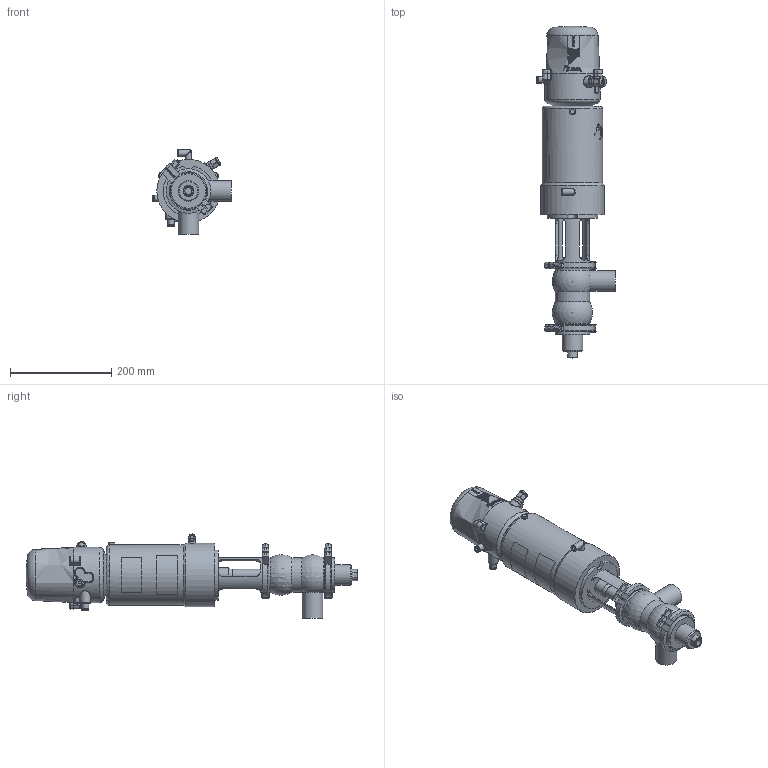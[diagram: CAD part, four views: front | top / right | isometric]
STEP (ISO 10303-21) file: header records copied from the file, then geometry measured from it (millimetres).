
FILE_DESCRIPTION (( 'STEP AP214' ), '1' );
FILE_NAME ('INNOVA S DB-90 W DIN 040 & C-TOP S_10.251.16.0018.STEP', '2024-08-19T10:13:08', ( '' ), ( '' ), 'SwSTEP 2.0', 'SolidWorks 2023', '' );
FILE_SCHEMA (( 'AUTOMOTIVE_DESIGN' ));
Length unit declared in the file: millimetre
Products named in the file (7): INNOVA S DB-90 W DIN 040 & C-TOP S_10.251.16.0018; 10.250.15.0002_Type S T1; 10.251.15.0001_DN 040; 10.240.15.0001_DN 040; 10.251.15.0002_DN 040; 10.426.15.0001_C-TOP S - 1 EV; 10.251.15.0010_DIN 040
Assembly tree (7 placements, depth 2):
  INNOVA S DB-90 W DIN 040 & C-TOP S_10.251.16.0018
    10.251.15.0001_DN 040
    10.250.15.0002_Type S T1
    10.426.15.0001_C-TOP S - 1 EV
    10.251.15.0010_DIN 040
    10.240.15.0001_DN 040  x2
    10.251.15.0002_DN 040
Bounding box: 156 x 656 x 166 mm (x, y, z)
Volume: 4742994.8 mm3; surface area: 349890.3 mm2
Topology: 7 solids, 7 shells, 1186 faces, 2864 edges, 1902 vertices
Faces by surface type: plane 413, cylinder 370, cone 202, bspline 160, torus 33, sphere 8
Full cylindrical faces by diameter (mm): 0.371 x17, 0.512 x16, 0.658 x16, 0.795 x16, 0.94 x15, 1.098 x15, 1.241 x13, 1.382 x13, 1.523 x11, 1.669 x10, 2.201 x1, 4.2 x2, 5 x1, 5.5 x2, 6 x3, 6.15 x1, 8 x5, 8.5 x1, 10 x1, 10.5 x2, 11 x2, 12.5 x6, 13 x2, 13.5 x2, 14 x1, 17 x3, 20 x2, 22 x2, 23 x1, 28 x1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
Entity records: 58186 total; most frequent: CARTESIAN_POINT 27435, ORIENTED_EDGE 4592, DIRECTION 3699, EDGE_CURVE 2296, VERTEX_POINT 1624, EDGE_LOOP 1578, AXIS2_PLACEMENT_3D 1507, FACE_OUTER_BOUND 1340
